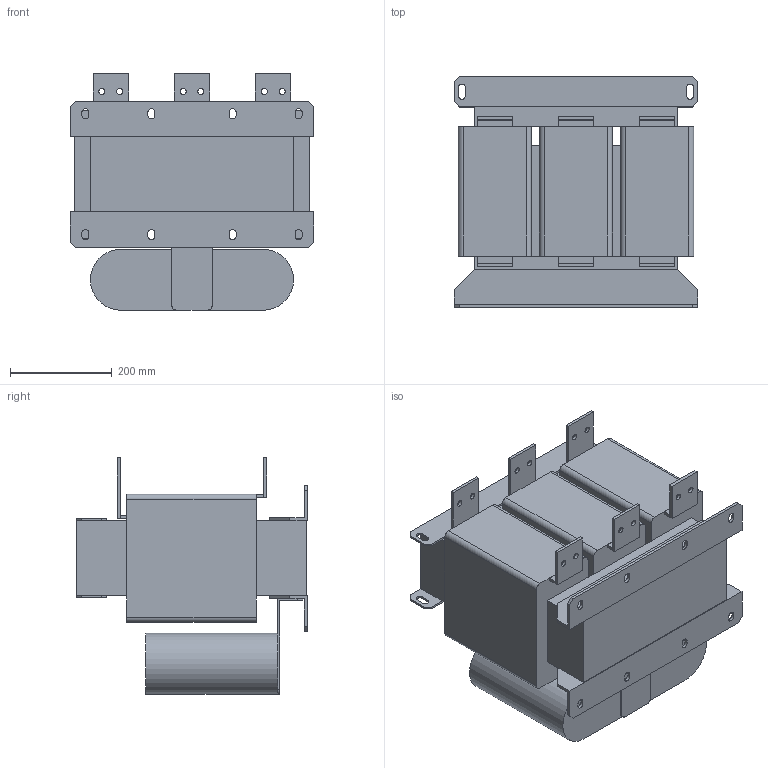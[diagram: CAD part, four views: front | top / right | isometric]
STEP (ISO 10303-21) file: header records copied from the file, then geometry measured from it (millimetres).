
FILE_DESCRIPTION(/* description */ (''),/* implementation_level */ '2;1');
FILE_NAME(/* name */ 'Sin-T4-660.stp',/* time_stamp */ '2025-03-10T16:10:45+04:00',/* author */ ('Лео'),/* organization */ (''),/* preprocessor_version */ 'ST-DEVELOPER v19.2',/* originating_system */ 'Autodesk Inventor 2024',/* authorisation */ '');
FILE_SCHEMA (('AUTOMOTIVE_DESIGN { 1 0 10303 214 3 1 1 }'));
Length unit declared in the file: millimetre
Products named in the file (1): Sin-T4-004
Bounding box: 480 x 455 x 466 mm (x, y, z)
Volume: 52435508.2 mm3; surface area: 2144210.1 mm2
Topology: 23 solids, 23 shells, 236 faces, 570 edges, 380 vertices
Faces by surface type: plane 182, cylinder 54
Full cylindrical faces by diameter (mm): 12 x12
Entity records: 6959 total; most frequent: CARTESIAN_POINT 1187, DIRECTION 1152, ORIENTED_EDGE 1140, EDGE_CURVE 570, LINE 462, VECTOR 462, VERTEX_POINT 380, AXIS2_PLACEMENT_3D 345
